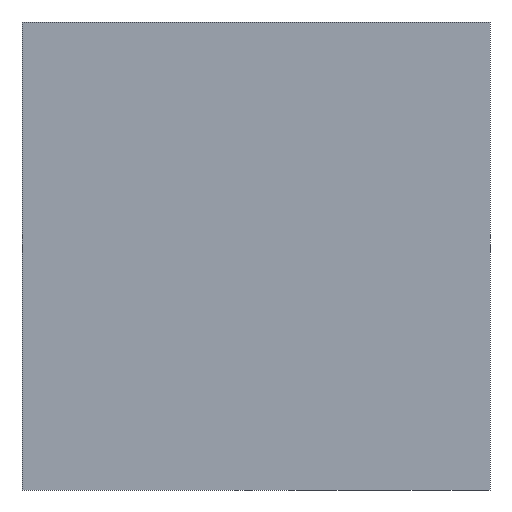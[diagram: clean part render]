
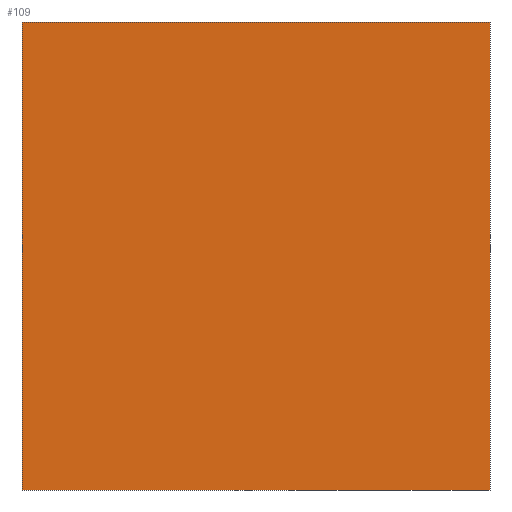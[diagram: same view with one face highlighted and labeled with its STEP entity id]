
A CAD part, front view. The second image highlights one B-rep face of the part: STEP entity #109.
In plain terms, the highlighted planar face has unit normal (0, -1, 0).
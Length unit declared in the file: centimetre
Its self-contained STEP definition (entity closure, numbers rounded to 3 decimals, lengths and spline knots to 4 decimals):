
#3 = DIRECTION ( 'NONE',  ( 0., 1., 0. ) ) ;
#4 = ORIENTED_EDGE ( 'NONE', *, *, #194, .F. ) ;
#8 = CARTESIAN_POINT ( 'NONE',  ( 0., 0., 1000. ) ) ;
#18 = LINE ( 'NONE', #53, #87 ) ;
#21 = VECTOR ( 'NONE', #341, 100. ) ;
#53 = CARTESIAN_POINT ( 'NONE',  ( 0., 0., 1000. ) ) ;
#59 = ORIENTED_EDGE ( 'NONE', *, *, #88, .T. ) ;
#66 = VECTOR ( 'NONE', #245, 100. ) ;
#82 = EDGE_CURVE ( 'NONE', #190, #401, #18, .T. ) ;
#87 = VECTOR ( 'NONE', #207, 100. ) ;
#88 = EDGE_CURVE ( 'NONE', #193, #357, #350, .T. ) ;
#94 = CARTESIAN_POINT ( 'NONE',  ( 0., 0., 0. ) ) ;
#109 = ADVANCED_FACE ( 'NONE', ( #335 ), #444, .F. ) ;
#116 = DIRECTION ( 'NONE',  ( 0., 0., 1. ) ) ;
#135 = LINE ( 'NONE', #216, #66 ) ;
#138 = AXIS2_PLACEMENT_3D ( 'NONE', #447, #3, #116 ) ;
#163 = ORIENTED_EDGE ( 'NONE', *, *, #82, .F. ) ;
#166 = CARTESIAN_POINT ( 'NONE',  ( 0., 0., 0. ) ) ;
#178 = EDGE_CURVE ( 'NONE', #190, #193, #238, .T. ) ;
#190 = VERTEX_POINT ( 'NONE', #8 ) ;
#193 = VERTEX_POINT ( 'NONE', #94 ) ;
#194 = EDGE_CURVE ( 'NONE', #401, #357, #135, .T. ) ;
#199 = DIRECTION ( 'NONE',  ( 0., 0., -1. ) ) ;
#201 = CARTESIAN_POINT ( 'NONE',  ( 1000., 0., 1000. ) ) ;
#207 = DIRECTION ( 'NONE',  ( 1., 0., 0. ) ) ;
#216 = CARTESIAN_POINT ( 'NONE',  ( 1000., 0., 1000. ) ) ;
#238 = LINE ( 'NONE', #377, #262 ) ;
#245 = DIRECTION ( 'NONE',  ( 0., 0., -1. ) ) ;
#262 = VECTOR ( 'NONE', #199, 100. ) ;
#299 = EDGE_LOOP ( 'NONE', ( #59, #4, #163, #325 ) ) ;
#325 = ORIENTED_EDGE ( 'NONE', *, *, #178, .T. ) ;
#335 = FACE_OUTER_BOUND ( 'NONE', #299, .T. ) ;
#341 = DIRECTION ( 'NONE',  ( 1., 0., 0. ) ) ;
#350 = LINE ( 'NONE', #166, #21 ) ;
#357 = VERTEX_POINT ( 'NONE', #373 ) ;
#373 = CARTESIAN_POINT ( 'NONE',  ( 1000., 0., 0. ) ) ;
#377 = CARTESIAN_POINT ( 'NONE',  ( 0., 0., 1000. ) ) ;
#401 = VERTEX_POINT ( 'NONE', #201 ) ;
#444 = PLANE ( 'NONE',  #138 ) ;
#447 = CARTESIAN_POINT ( 'NONE',  ( 0., 0., 1000. ) ) ;
